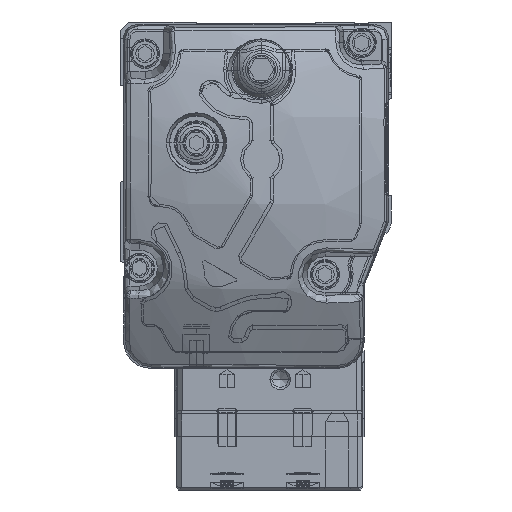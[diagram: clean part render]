
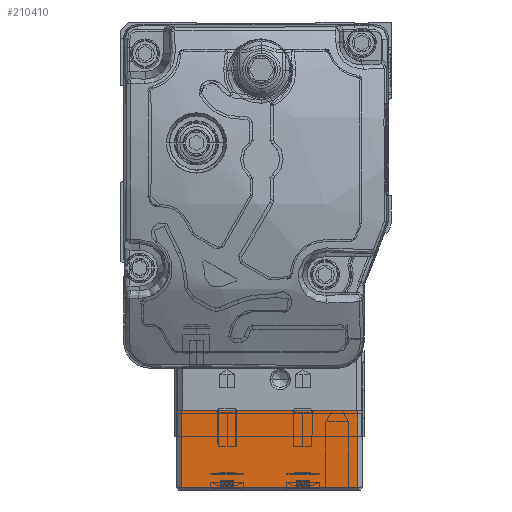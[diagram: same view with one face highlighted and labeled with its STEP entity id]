
A CAD part, left-side view. The second image highlights one B-rep face of the part: STEP entity #210410.
In plain terms, the highlighted planar face has unit normal (-1, 0, 0) as drawn and (0, 1, 0) by its records, which use the part's own axes.
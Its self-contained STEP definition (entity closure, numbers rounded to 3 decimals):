
#127530=CARTESIAN_POINT('',(256.2,137.891,
-152.076));
#127540=VERTEX_POINT('',#127530);
#127570=CARTESIAN_POINT('',(256.2,137.891,
-151.076));
#127580=DIRECTION('',(0.,0.,-1.));
#127590=VECTOR('',#127580,1.);
#127600=LINE('',#127570,#127590);
#127610=CARTESIAN_POINT('',(256.2,137.891,
-166.176));
#127620=VERTEX_POINT('',#127610);
#127630=EDGE_CURVE('',#127540,#127620,#127600,.T.);
#128200=CARTESIAN_POINT('',(223.7,137.891,
-166.176));
#128210=VERTEX_POINT('',#128200);
#128240=CARTESIAN_POINT('',(223.7,137.891,
-151.076));
#128250=DIRECTION('',(0.,0.,1.));
#128260=VECTOR('',#128250,1.);
#128270=LINE('',#128240,#128260);
#128280=CARTESIAN_POINT('',(223.7,137.891,
-152.076));
#128290=VERTEX_POINT('',#128280);
#128300=EDGE_CURVE('',#128210,#128290,#128270,.T.);
#166480=CARTESIAN_POINT('',(311.457,137.891,
-152.076));
#166490=DIRECTION('',(1.,0.,0.));
#166500=VECTOR('',#166490,1.);
#166510=LINE('',#166480,#166500);
#166520=EDGE_CURVE('',#128290,#127540,#166510,.T.);
#210190=CARTESIAN_POINT('',(311.457,137.891,
-166.176));
#210200=DIRECTION('',(1.,0.,0.));
#210210=VECTOR('',#210200,1.);
#210220=LINE('',#210190,#210210);
#210230=EDGE_CURVE('',#128210,#127620,#210220,.T.);
#210300=CARTESIAN_POINT('',(241.191,137.891,
-166.176));
#210310=DIRECTION('',(0.,1.,0.));
#210320=DIRECTION('',(1.,0.,0.));
#210330=AXIS2_PLACEMENT_3D('',#210300,#210310,#210320);
#210340=PLANE('',#210330);
#210350=ORIENTED_EDGE('',*,*,#210230,.F.);
#210360=ORIENTED_EDGE('',*,*,#127630,.T.);
#210370=ORIENTED_EDGE('',*,*,#166520,.T.);
#210380=ORIENTED_EDGE('',*,*,#128300,.T.);
#210390=EDGE_LOOP('',(#210380,#210370,#210360,#210350));
#210400=FACE_OUTER_BOUND('',#210390,.T.);
#210410=ADVANCED_FACE('',(#210400),#210340,.T.);
